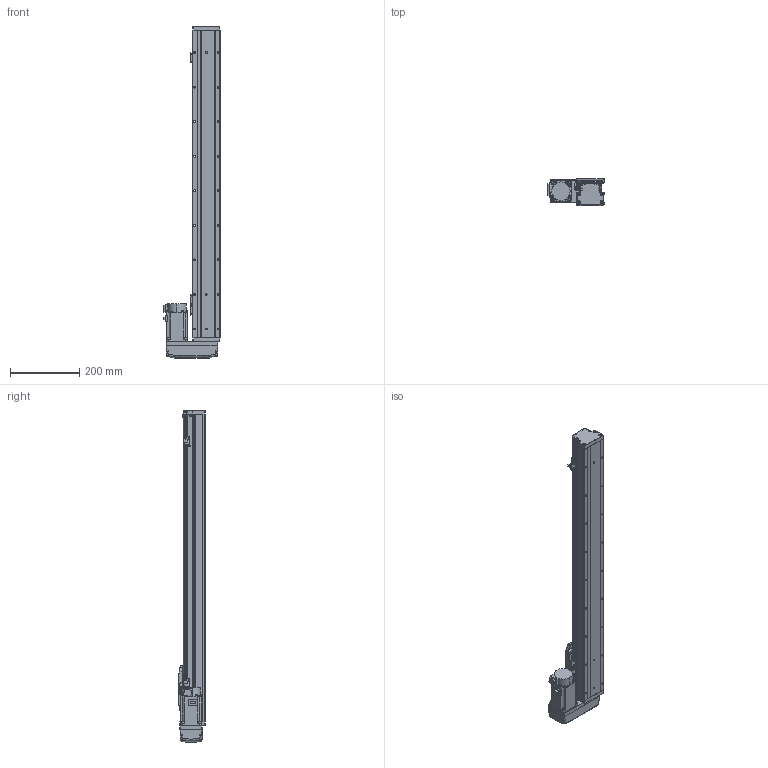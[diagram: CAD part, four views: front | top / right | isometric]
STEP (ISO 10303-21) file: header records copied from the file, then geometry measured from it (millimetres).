
FILE_DESCRIPTION (( 'STEP AP203' ), '1' );
FILE_NAME ('GTH8-700-BL-M20-C4.step', '2022-09-23T01:01:12', ( '微软用户' ), ( '微软中国' ), 'SwSTEP 2.0', 'SolidWorks 2020', '' );
FILE_SCHEMA (( 'CONFIG_CONTROL_DESIGN' ));
Length unit declared in the file: millimetre
Products named in the file (18): GTH80-006; GTH50-024; GTH8-700-BL-M20-C4; GTH80-013; GTH50-023; GBT 70.3-M3℅6; GBT96.1-2002 3×0.8; GTH80-022; BTH-M3X5X6; GTH80-001_700; GBT 70.1-M3℅6; hg-kn43j_-s100_; GTH80-003; GBT 70.1-M4×16; CTHA86-015-1_CTHA86-015-2; GTH80-004; GTH80-028; CTHA86-033_M40B
Assembly tree (57 placements, depth 2):
  GTH8-700-BL-M20-C4
    GTH80-001_700
    GTH80-003
    GTH80-004
    GTH80-006
    GTH80-013
    GBT 70.3-M3℅6  x4
    GTH80-022
    GBT 70.1-M3℅6  x14
    GBT 70.1-M4×16  x8
    GTH80-028  x2
    GTH50-024  x3
    GTH50-023  x3
    GBT96.1-2002 3×0.8  x6
    BTH-M3X5X6  x8
    hg-kn43j_-s100_
    CTHA86-015-1_CTHA86-015-2
    CTHA86-033_M40B
Bounding box: 164.8 x 78 x 961 mm (x, y, z)
Volume: 4843078.5 mm3; surface area: 496614.3 mm2
Topology: 59 solids, 59 shells, 2244 faces, 5187 edges, 3179 vertices
Faces by surface type: plane 1187, cylinder 615, cone 260, torus 166, bspline 8, sphere 8
Entity records: 41070 total; most frequent: CARTESIAN_POINT 7217, DIRECTION 6677, ORIENTED_EDGE 6192, EDGE_CURVE 3096, AXIS2_PLACEMENT_3D 2337, LINE 2003, VECTOR 2003, VERTEX_POINT 1954
